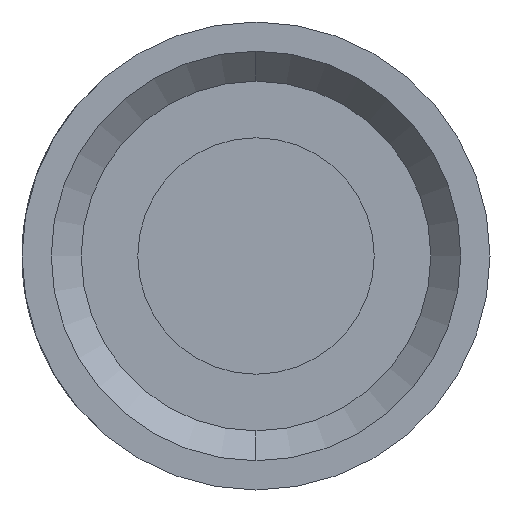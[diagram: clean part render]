
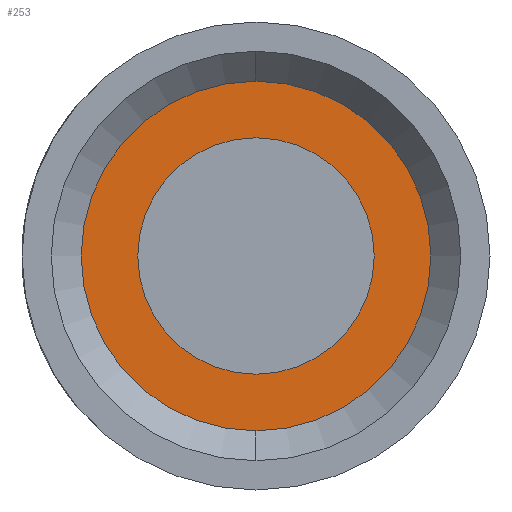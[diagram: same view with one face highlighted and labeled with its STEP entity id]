
A CAD part, left-side view. The second image highlights one B-rep face of the part: STEP entity #253.
In plain terms, the highlighted planar face has unit normal (-1, 0, 0).
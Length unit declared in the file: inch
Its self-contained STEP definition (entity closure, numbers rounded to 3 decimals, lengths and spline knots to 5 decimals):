
#253 = ADVANCED_FACE ( 'NONE', ( #12083, #12084 ), #12700, .T. ) ;
#973 = VERTEX_POINT ( 'NONE', #12974 ) ;
#974 = VERTEX_POINT ( 'NONE', #12975 ) ;
#976 = VERTEX_POINT ( 'NONE', #12977 ) ;
#977 = VERTEX_POINT ( 'NONE', #12978 ) ;
#1779 = EDGE_CURVE ( 'NONE', #977, #976, #12299, .T. ) ;
#1780 = EDGE_CURVE ( 'NONE', #974, #973, #12300, .T. ) ;
#3258 = EDGE_CURVE ( 'NONE', #973, #974, #19220, .T. ) ;
#3266 = EDGE_CURVE ( 'NONE', #976, #977, #19233, .T. ) ;
#4642 = ORIENTED_EDGE ( 'NONE', *, *, #3266, .T. ) ;
#4643 = ORIENTED_EDGE ( 'NONE', *, *, #1779, .T. ) ;
#4644 = ORIENTED_EDGE ( 'NONE', *, *, #1780, .F. ) ;
#4645 = ORIENTED_EDGE ( 'NONE', *, *, #3258, .F. ) ;
#7222 = EDGE_LOOP ( 'NONE', ( #4642, #4643 ) ) ;
#7234 = EDGE_LOOP ( 'NONE', ( #4644, #4645 ) ) ;
#11041 = AXIS2_PLACEMENT_3D ( 'NONE', #12699, #12656, #12702 ) ;
#11143 = AXIS2_PLACEMENT_3D ( 'NONE', #15369, #15370, #15371 ) ;
#11144 = AXIS2_PLACEMENT_3D ( 'NONE', #15372, #15373, #15374 ) ;
#12083 = FACE_OUTER_BOUND ( 'NONE', #7222, .T. ) ;
#12084 = FACE_BOUND ( 'NONE', #7234, .T. ) ;
#12299 = CIRCLE ( 'NONE', #11143, 0.07 ) ;
#12300 = CIRCLE ( 'NONE', #11144, 0.04735 ) ;
#12656 = DIRECTION ( 'NONE',  ( -1., 0., 0. ) ) ;
#12699 = CARTESIAN_POINT ( 'NONE',  ( 0., -0.53118, 0. ) ) ;
#12700 = PLANE ( 'NONE',  #11041 ) ;
#12702 = DIRECTION ( 'NONE',  ( 0., 0., 1. ) ) ;
#12974 = CARTESIAN_POINT ( 'NONE',  ( 0., 0., -0.04735 ) ) ;
#12975 = CARTESIAN_POINT ( 'NONE',  ( 0., 0., 0.04735 ) ) ;
#12977 = CARTESIAN_POINT ( 'NONE',  ( 0., 0., 0.07 ) ) ;
#12978 = CARTESIAN_POINT ( 'NONE',  ( 0., 0., -0.07 ) ) ;
#15369 = CARTESIAN_POINT ( 'NONE',  ( 0., 0., 0. ) ) ;
#15370 = DIRECTION ( 'NONE',  ( -1., 0., 0. ) ) ;
#15371 = DIRECTION ( 'NONE',  ( 0., 0., 1. ) ) ;
#15372 = CARTESIAN_POINT ( 'NONE',  ( 0., 0., 0. ) ) ;
#15373 = DIRECTION ( 'NONE',  ( -1., 0., 0. ) ) ;
#15374 = DIRECTION ( 'NONE',  ( 0., 0., 1. ) ) ;
#17510 = AXIS2_PLACEMENT_3D ( 'NONE', #19649, #19650, #19651 ) ;
#17512 = AXIS2_PLACEMENT_3D ( 'NONE', #19659, #19660, #19661 ) ;
#19220 = CIRCLE ( 'NONE', #17510, 0.04735 ) ;
#19233 = CIRCLE ( 'NONE', #17512, 0.07 ) ;
#19649 = CARTESIAN_POINT ( 'NONE',  ( 0., 0., 0. ) ) ;
#19650 = DIRECTION ( 'NONE',  ( -1., 0., 0. ) ) ;
#19651 = DIRECTION ( 'NONE',  ( 0., 0., 1. ) ) ;
#19659 = CARTESIAN_POINT ( 'NONE',  ( 0., 0., 0. ) ) ;
#19660 = DIRECTION ( 'NONE',  ( -1., 0., 0. ) ) ;
#19661 = DIRECTION ( 'NONE',  ( 0., 0., 1. ) ) ;
